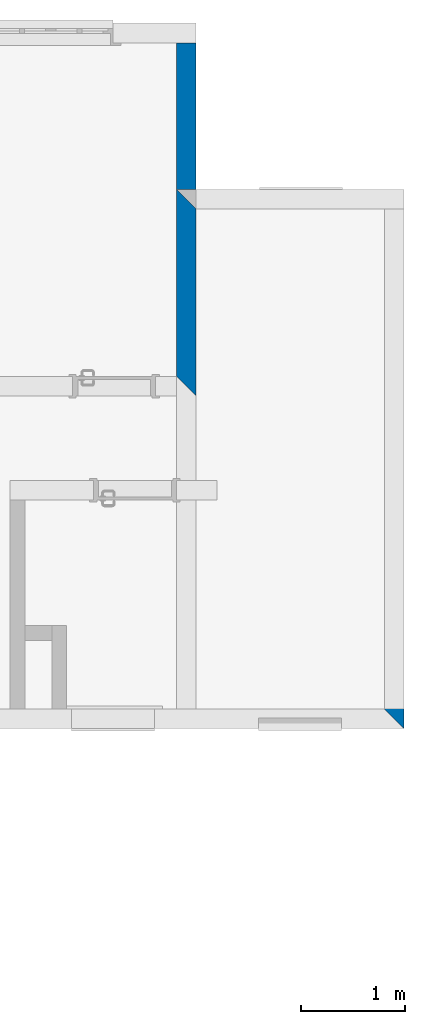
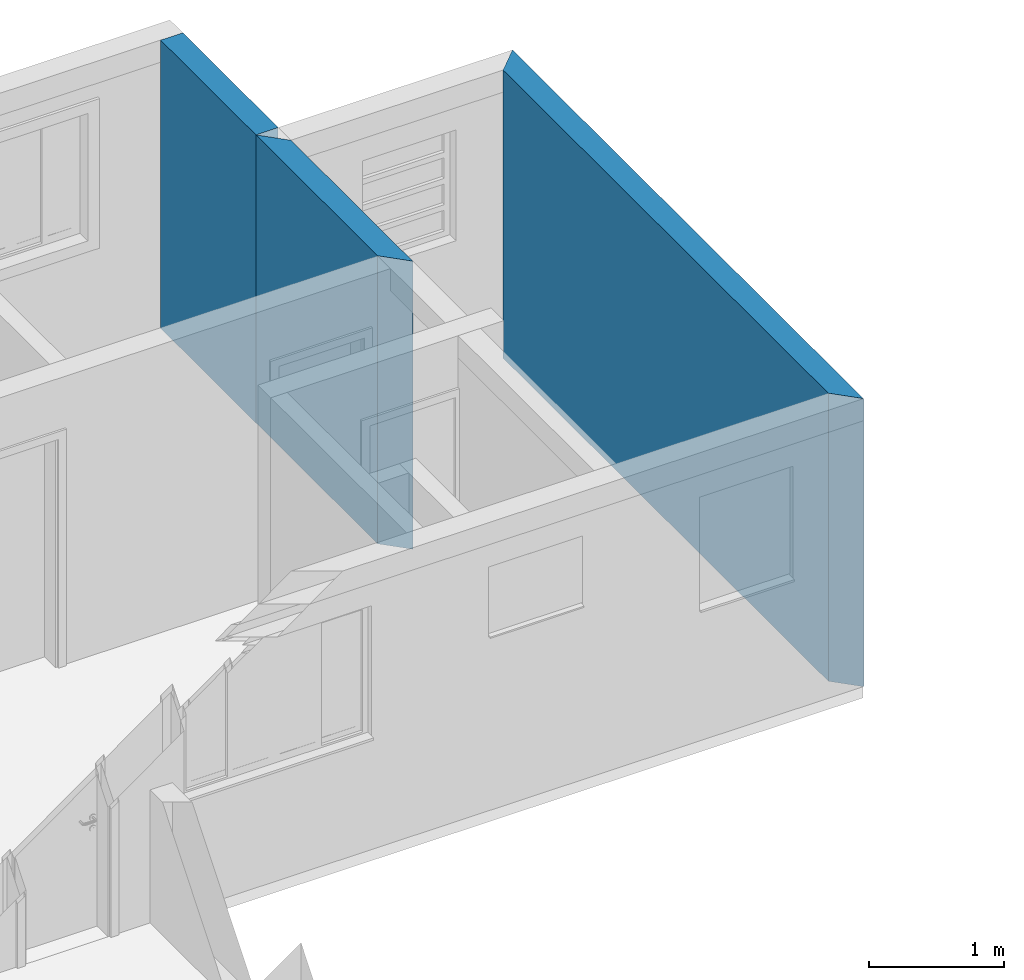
# One storey, part 42 of 47: 3 walls.
"""IFC2X3 building model written with IfcOpenShell, lengths in millimetres."""

from ifc_helpers import new_model, entity, si_unit, converted_unit, derived_unit, money_unit, direction, frame, origin_with_axes, place, context, subcontext, project, spatial, polyline, outline, extrude, material, layer, layer_set, layer_usage, type_object, element, save


model = new_model("IFC2X3")

# Units and contexts
model_context = context("Model", 3, precision=0.01, world=origin_with_axes(), true_north=direction((0.0, 1.0)))
body_context = subcontext(model_context, "Body", "Model", "MODEL_VIEW")
ifc_project = project(units=[si_unit("LENGTHUNIT", "METRE", prefix="MILLI"), si_unit("AREAUNIT", "SQUARE_METRE"), si_unit("VOLUMEUNIT", "CUBIC_METRE"), converted_unit("PLANEANGLEUNIT", "DEGREE", entity("IfcPlaneAngleMeasure", 0.0174532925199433), si_unit("PLANEANGLEUNIT", "RADIAN"), dimensions=[0, 0, 0, 0, 0, 0, 0]), money_unit("USD"), converted_unit("TIMEUNIT", "Year", entity("IfcTimeMeasure", 31557600.0), si_unit("TIMEUNIT", "SECOND"), dimensions=[0, 0, 1, 0, 0, 0, 0]), si_unit("MASSUNIT", "GRAM", prefix="KILO"), si_unit("THERMODYNAMICTEMPERATUREUNIT", "DEGREE_CELSIUS"), si_unit("LUMINOUSINTENSITYUNIT", "LUMEN"), si_unit("ENERGYUNIT", "JOULE", prefix="MEGA"), derived_unit("THERMALCONDUCTANCEUNIT", [(si_unit("POWERUNIT", "WATT"), 1), (si_unit("LENGTHUNIT", "METRE"), -1), (si_unit("THERMODYNAMICTEMPERATUREUNIT", "KELVIN"), -1)]), derived_unit("SPECIFICHEATCAPACITYUNIT", [(si_unit("ENERGYUNIT", "JOULE"), 1), (si_unit("MASSUNIT", "GRAM", prefix="KILO"), -1), (si_unit("THERMODYNAMICTEMPERATUREUNIT", "KELVIN"), -1)]), derived_unit("MASSDENSITYUNIT", [(si_unit("MASSUNIT", "GRAM", prefix="KILO"), 1), (si_unit("VOLUMEUNIT", "CUBIC_METRE"), -1)])], contexts=[model_context])

# Site, building, storey
site_placement = place(None, origin_with_axes())
site = spatial("IfcSite", under=ifc_project, at=site_placement, Name="Local", CompositionType="ELEMENT")
building_placement = place(site_placement, origin_with_axes())
building = spatial("IfcBuilding", under=site, at=building_placement, Name="Construção", CompositionType="ELEMENT")
storey_placement = place(building_placement, origin_with_axes())
storey = spatial("IfcBuildingStorey", under=building, at=storey_placement, Name="Pavimento Tipo", CompositionType="ELEMENT", Elevation=0.0)

# Walls
ifc_material = material(Name="Concreto - Estrutural")
ifc_layer = layer(ifc_material, 190.0, ventilated="UNKNOWN")
ifc_layer_set = layer_set([ifc_layer], Name="Concreto - Estrutural 190")
ifc_layer_usage_1 = layer_usage(ifc_layer_set, "AXIS2", "NEGATIVE", 0.0)
wall_type = type_object("IfcWallType", Name="Concreto - Estrutural 190", PredefinedType="NOTDEFINED")
wall_1_placement = place(storey_placement, frame((6442.566997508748, 17586.98141771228, 0.0), z_axis=(0.0, 0.0, 1.0), x_axis=(0.0, -1.0, 0.0)))
element("IfcWallStandardCase", 1, at=wall_1_placement, inside=storey, type_object=wall_type, material=ifc_layer_usage_1, Name="Apartamento 1 - Parede-083", context=body_context, shape_type="SweptSolid", body=[
    extrude(outline(polyline([(0.0, -190.0000000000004), (1800.000000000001, -190.0000000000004), (1990.0, 0.0), (190.0000000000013, 0.0), (0.0, -190.0000000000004)])), origin_with_axes(), (0.0, 0.0, 1.0), 2600.0),
])
ifc_layer_usage_2 = layer_usage(ifc_layer_set, "AXIS2", "NEGATIVE", 0.0)
wall_2_placement = place(storey_placement, frame((6252.566997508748, 17586.98141771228, 0.0), z_axis=(0.0, 0.0, 1.0), x_axis=(0.0, 1.0, 0.0)))
element("IfcWallStandardCase", 2, at=wall_2_placement, inside=storey, type_object=wall_type, material=ifc_layer_usage_2, Name="Apartamento 1 - Parede-005", context=body_context, shape_type="SweptSolid", body=[
    extrude(outline(polyline([(0.0, -190.0000000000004), (1409.999999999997, -190.0000000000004), (1409.999999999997, 0.0), (0.0, 0.0), (0.0, -190.0000000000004)])), origin_with_axes(), (0.0, 0.0, 1.0), 2600.0),
])
ifc_layer_usage_3 = layer_usage(ifc_layer_set, "AXIS2", "NEGATIVE", 0.0)
wall_3_placement = place(storey_placement, frame((8442.56699750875, 17586.98141771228, 0.0), z_axis=(0.0, 0.0, 1.0), x_axis=(0.0, -1.0, 0.0)))
element("IfcWallStandardCase", 3, at=wall_3_placement, inside=storey, type_object=wall_type, material=ifc_layer_usage_3, Name="Apartamento 1 - Parede-088", context=body_context, shape_type="SweptSolid", body=[
    extrude(outline(polyline([(190.0000000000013, -189.9999999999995), (5000.0, -189.9999999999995), (5189.999999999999, 0.0), (0.0, 0.0), (190.0000000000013, -189.9999999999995)])), origin_with_axes(), (0.0, 0.0, 1.0), 2600.0),
])

save(model, "model.ifc")
